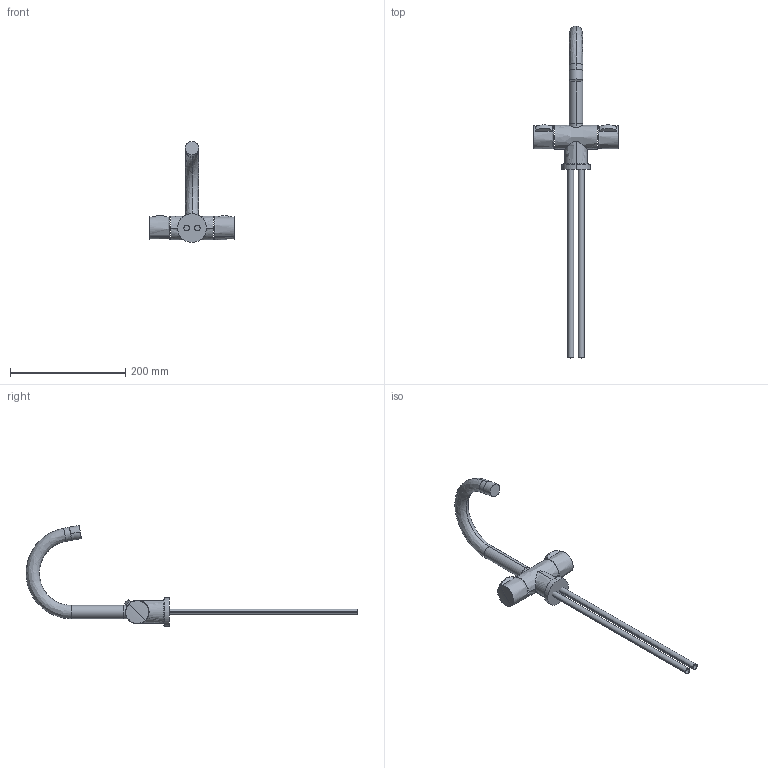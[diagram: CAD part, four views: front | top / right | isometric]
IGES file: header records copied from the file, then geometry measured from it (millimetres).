
Start section:  PTC IGES file: 62021_web.igs
Global section: file name: 62021_web.igs; native system: Creo Parametric by PTC Inc.; preprocessor: 2017380; author: jaj; organization: Unknown; date: 20180808.092925; units: millimetre
Bounding box: 146.6 x 575.2 x 175.06 mm (x, y, z)
Surface area: 106608.9 mm2 (no closed solid volume)
Topology: 0 solids, 0 shells, 54 faces, 352 edges, 404 vertices
Faces by surface type: revolution 44, bspline 10
